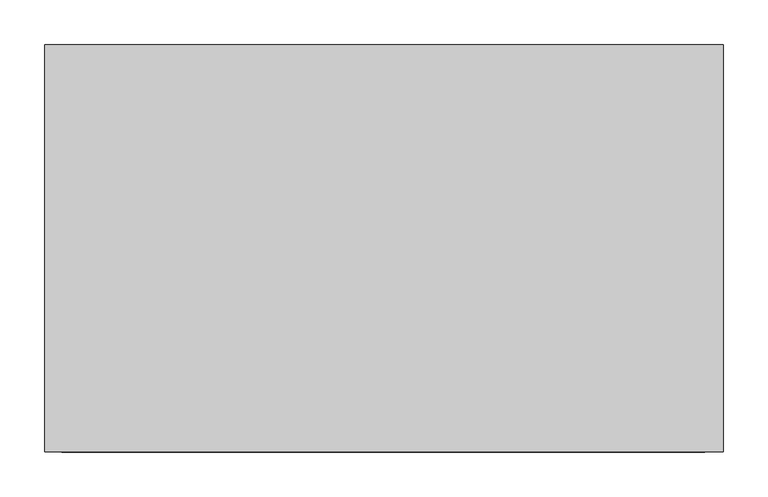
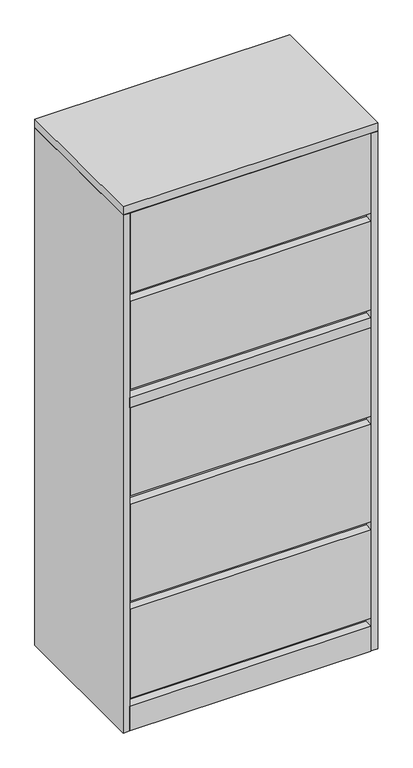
"""IFC4 building model written with IfcOpenShell, lengths in millimetres: furniture geometry, Steelcase - 900 Series - Storage - Lateral File With Posting Shelf - Flush Steel : One 12H Lift Up Door - 30W."""

from ifc_helpers import new_model, si_unit, frame, origin, origin_with_axes, place, context, project, spatial, polyline, outline, extrude, faceted_brep, source, transform, mapped, element, save


def furniture_0bf32493(model_context):
    return source(origin(), model_context, "Body", "SolidModel", [
        extrude(outline(polyline([(741.1722015, -457.2), (20.8289612, -457.2), (20.8289612, -431.800255), (741.1722015, -431.800255), (741.1722015, -457.2)])), frame((0.0, 0.0, 103.3780013), z_axis=(0.0, 0.0, 1.0), x_axis=(1.0, 0.0, 0.0)), (0.0, 0.0, 1.0), 280.7461987),
        extrude(outline(polyline([(741.1722015, -457.2), (20.8289612, -457.2), (20.8289612, -431.800255), (741.1722015, -431.800255), (741.1722015, -457.2)])), frame((0.0, 0.0, 409.5242), z_axis=(0.0, 0.0, 1.0), x_axis=(1.0, 0.0, 0.0)), (0.0, 0.0, 1.0), 307.54066),
        extrude(outline(polyline([(741.1722015, -457.2), (20.8289612, -457.2), (20.8289612, -431.800255), (741.1722015, -431.800255), (741.1722015, -457.2)])), frame((0.0, 0.0, 742.46486), z_axis=(0.0, 0.0, 1.0), x_axis=(1.0, 0.0, 0.0)), (0.0, 0.0, 1.0), 279.4),
        extrude(outline(polyline([(741.1722015, -457.2), (20.8289612, -457.2), (20.8289612, -431.800255), (741.1722015, -431.800255), (741.1722015, -457.2)])), frame((0.0, 0.0, 1079.5), z_axis=(0.0, 0.0, 1.0), x_axis=(1.0, 0.0, 0.0)), (0.0, 0.0, 1.0), 279.4),
        extrude(outline(polyline([(741.1722015, -457.2), (20.8289612, -457.2), (20.8289612, -431.800255), (741.1722015, -431.800255), (741.1722015, -457.2)])), frame((0.0, 0.0, 1384.3), z_axis=(0.0, 0.0, 1.0), x_axis=(1.0, 0.0, 0.0)), (0.0, 0.0, 1.0), 252.3046248),
        extrude(outline(polyline([(741.1722015, -457.2), (19.3039998, -457.2), (19.3039998, -431.800255), (741.1722015, -431.800255), (741.1722015, -457.2)])), frame((0.0, 0.0, 1022.5278), z_axis=(0.0, 0.0, 1.0), x_axis=(1.0, 0.0, 0.0)), (0.0, 0.0, 1.0), 31.5722),
        extrude(outline(polyline([(742.6960184, -25.2721219), (742.6960184, -431.800255), (19.3039998, -431.800255), (19.3039998, -25.2721219), (742.6960184, -25.2721219)])), frame((0.0, 0.0, 1358.9), z_axis=(0.0, 0.0, 1.0), x_axis=(1.0, 0.0, 0.0)), (0.0, 0.0, 1.0), 25.4),
        extrude(outline(polyline([(742.6960184, -25.2721219), (742.6960184, -431.800255), (19.3039998, -431.800255), (19.3039998, -25.2721219), (742.6960184, -25.2721219)])), frame((0.0, 0.0, 1054.1000242), z_axis=(0.0, 0.0, 1.0), x_axis=(1.0, 0.0, 0.0)), (0.0, 0.0, 1.0), 25.4),
        extrude(outline(polyline([(742.6960184, -25.2721219), (742.6960184, -431.800255), (19.3039998, -431.800255), (19.3039998, -25.2721219), (742.6960184, -25.2721219)])), frame((0.0, 0.0, 717.06486), z_axis=(0.0, 0.0, 1.0), x_axis=(1.0, 0.0, 0.0)), (0.0, 0.0, 1.0), 25.4),
        extrude(outline(polyline([(742.6960184, -25.2721219), (742.6960184, -431.800255), (19.3039998, -431.800255), (19.3039998, -25.2721219), (742.6960184, -25.2721219)])), frame((0.0, 0.0, 384.1242037), z_axis=(0.0, 0.0, 1.0), x_axis=(1.0, 0.0, 0.0)), (0.0, 0.0, 1.0), 25.4),
        extrude(outline(polyline([(-430.275847, 77.9779983), (-430.275847, 103.3780013), (-25.2721219, 103.3780013), (-25.2721219, 0.0), (-457.2, 0.0), (-457.2, 77.9779983), (-430.275847, 77.9779983)])), frame((19.3039998, 0.0, 0.0), z_axis=(1.0, 0.0, 0.0), x_axis=(0.0, 1.0, 0.0)), (0.0, 0.0, 1.0), 721.8682018),
        faceted_brep([(762.0, 0.0, 1663.7), (0.0, 0.0, 1663.7), (0.0, -457.2, 1663.7), (762.0, -457.2, 1663.7), (762.0, 0.0, 1638.2999516), (762.0, -457.2, 1638.2999516), (0.0, -457.2, 1638.2999516), (0.0, 0.0, 1638.2999516), (742.6960184, -25.2721219, 1638.2999516), (20.8289612, -25.2721219, 1638.2999516), (20.8289612, -415.9241219, 1638.2999516), (742.6960184, -415.9241219, 1638.2999516), (742.6960184, -25.2721219, 1636.776), (742.6960184, -415.9241219, 1636.776), (20.8289612, -415.9241219, 1636.776), (20.8289612, -25.2721219, 1636.776)], [[[0, 1, 2, 3]], [[4, 5, 6, 7], [8, 9, 10, 11]], [[1, 0, 4, 7]], [[2, 1, 7, 6]], [[3, 2, 6, 5]], [[0, 3, 5, 4]], [[12, 13, 14, 15]], [[12, 15, 9, 8]], [[15, 14, 10, 9]], [[14, 13, 11, 10]], [[13, 12, 8, 11]]]),
        extrude(outline(polyline([(742.6960184, -25.2721219), (19.3039998, -25.2721219), (19.3039998, -457.2), (0.0, -457.2), (0.0, 0.0), (762.0, 0.0), (762.0, -457.2), (742.6960184, -457.2), (742.6960184, -25.2721219)])), origin_with_axes(), (0.0, 0.0, 1.0), 1636.776),
    ])


if __name__ == "__main__":
    model = new_model("IFC4")
    model_context = context("Model", 3, world=origin())
    ifc_project = project(units=[si_unit("LENGTHUNIT", "METRE", prefix="MILLI")], contexts=[model_context])
    site = spatial("IfcSite", under=ifc_project)
    building = spatial("IfcBuilding", under=site)
    placement = place(None, origin())
    furniture_shape = furniture_0bf32493(model_context)
    element("IfcFurniture", 1, ObjectType="Steelcase - 900 Series - Storage - Lateral File With Posting Shelf - Flush Steel : One 12H Lift Up Door - 30W", at=placement, inside=building, context=model_context, shape_type="MappedRepresentation", body=[
        mapped(furniture_shape, transform((0.0, 0.0, 0.0), x_axis=(1.0, 0.0, 0.0), y_axis=(0.0, 1.0, 0.0), z_axis=(0.0, 0.0, 1.0))),
    ])
    save(model, "model.ifc")
